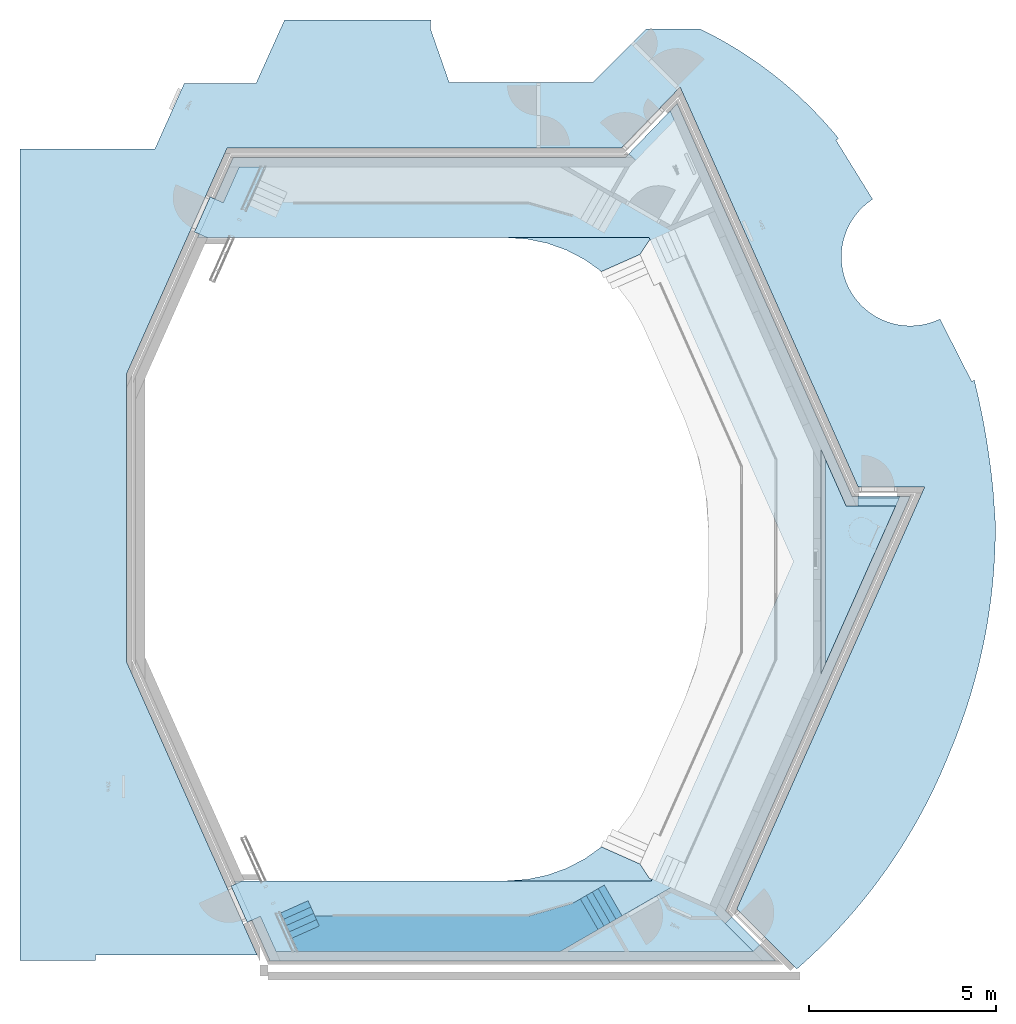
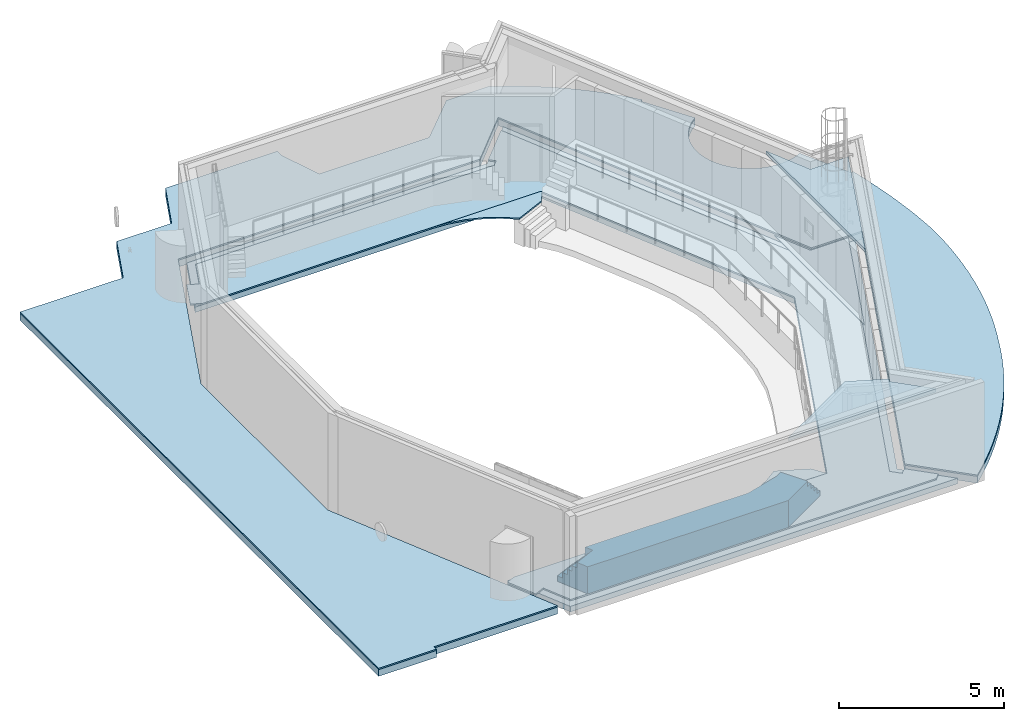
# One storey, part 4 of 16: 11 slabs.
"""IFC2X3 building model written with IfcOpenShell, lengths in millimetres."""

from ifc_helpers import new_model, entity, si_unit, converted_unit, derived_unit, direction, frame, frame_2d, origin, place, context, subcontext, project, spatial, polyline, circle_curve, parameter, trimmed, segment, composite_curve, outline, extrude, material, layer, layer_set, layer_usage, type_object, element, save


model = new_model("IFC2X3")

# Units and contexts
model_context = context("Model", 3, precision=0.01, world=origin(), true_north=direction((6.123031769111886e-17, 1.0)))
body_context = subcontext(model_context, "Body", "Model", "MODEL_VIEW")
ifc_project = project(units=[si_unit("LENGTHUNIT", "METRE", prefix="MILLI"), si_unit("AREAUNIT", "SQUARE_METRE"), si_unit("VOLUMEUNIT", "CUBIC_METRE"), converted_unit("PLANEANGLEUNIT", "DEGREE", entity("IfcRatioMeasure", 0.017453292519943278), si_unit("PLANEANGLEUNIT", "RADIAN"), dimensions=[0, 0, 0, 0, 0, 0, 0]), si_unit("MASSUNIT", "GRAM", prefix="KILO"), derived_unit("MASSDENSITYUNIT", [(si_unit("MASSUNIT", "GRAM", prefix="KILO"), 1), (si_unit("LENGTHUNIT", "METRE"), -3)]), derived_unit("MOMENTOFINERTIAUNIT", [(si_unit("LENGTHUNIT", "METRE"), 4)]), si_unit("TIMEUNIT", "SECOND"), si_unit("FREQUENCYUNIT", "HERTZ"), si_unit("THERMODYNAMICTEMPERATUREUNIT", "DEGREE_CELSIUS"), derived_unit("THERMALTRANSMITTANCEUNIT", [(si_unit("MASSUNIT", "GRAM", prefix="KILO"), 1), (si_unit("THERMODYNAMICTEMPERATUREUNIT", "KELVIN"), -1), (si_unit("TIMEUNIT", "SECOND"), -3)]), derived_unit("VOLUMETRICFLOWRATEUNIT", [(si_unit("LENGTHUNIT", "METRE"), 3), (si_unit("TIMEUNIT", "SECOND"), -1)]), derived_unit("MASSFLOWRATEUNIT", [(si_unit("MASSUNIT", "GRAM", prefix="KILO"), 1), (si_unit("TIMEUNIT", "SECOND"), -1)]), derived_unit("ROTATIONALFREQUENCYUNIT", [(si_unit("TIMEUNIT", "SECOND"), -1)]), si_unit("ELECTRICCURRENTUNIT", "AMPERE"), si_unit("ELECTRICVOLTAGEUNIT", "VOLT"), si_unit("POWERUNIT", "WATT"), si_unit("FORCEUNIT", "NEWTON", prefix="KILO"), si_unit("ILLUMINANCEUNIT", "LUX"), si_unit("LUMINOUSFLUXUNIT", "LUMEN"), si_unit("LUMINOUSINTENSITYUNIT", "CANDELA"), derived_unit("USERDEFINED", [(si_unit("MASSUNIT", "GRAM", prefix="KILO"), -1), (si_unit("LENGTHUNIT", "METRE"), -2), (si_unit("TIMEUNIT", "SECOND"), 3), (si_unit("LUMINOUSFLUXUNIT", "LUMEN"), 1)]), derived_unit("SOUNDPOWERUNIT", [(si_unit("MASSUNIT", "GRAM", prefix="KILO"), 1), (si_unit("LENGTHUNIT", "METRE"), 2), (si_unit("TIMEUNIT", "SECOND"), -3)]), derived_unit("SOUNDPRESSUREUNIT", [(si_unit("MASSUNIT", "GRAM", prefix="KILO"), 1), (si_unit("LENGTHUNIT", "METRE"), -1), (si_unit("TIMEUNIT", "SECOND"), -2)]), derived_unit("LINEARVELOCITYUNIT", [(si_unit("LENGTHUNIT", "METRE"), 1), (si_unit("TIMEUNIT", "SECOND"), -1)]), si_unit("PRESSUREUNIT", "PASCAL"), derived_unit("USERDEFINED", [(si_unit("LENGTHUNIT", "METRE"), -2), (si_unit("MASSUNIT", "GRAM", prefix="KILO"), 1), (si_unit("TIMEUNIT", "SECOND"), -2)]), derived_unit("LINEARFORCEUNIT", [(si_unit("MASSUNIT", "GRAM", prefix="KILO"), 1), (si_unit("LENGTHUNIT", "METRE"), 1), (si_unit("TIMEUNIT", "SECOND"), -2), (si_unit("LENGTHUNIT", "METRE"), -1)]), derived_unit("PLANARFORCEUNIT", [(si_unit("MASSUNIT", "GRAM", prefix="KILO"), 1), (si_unit("LENGTHUNIT", "METRE"), 1), (si_unit("TIMEUNIT", "SECOND"), -2), (si_unit("LENGTHUNIT", "METRE"), -2)])], contexts=[model_context])

# Site, building, storey
site_placement = place(None, frame((-10000.0, -10000.0, 0.0)))
site = spatial("IfcSite", under=ifc_project, at=site_placement, Name="Default", CompositionType="ELEMENT")
building_placement = place(site_placement, origin())
building = spatial("IfcBuilding", under=site, at=building_placement, CompositionType="ELEMENT")
storey_placement = place(building_placement, frame((0.0, 0.0, 9000.0)))
storey = spatial("IfcBuildingStorey", under=building, at=storey_placement, Name="02 2e verdieping", CompositionType="ELEMENT", Elevation=9000.0)

# Slabs
ifc_material_1 = material(Name="NLRS_beton ihwg")
ifc_layer_1 = layer(ifc_material_1, 200.0)
ifc_layer_set_1 = layer_set([ifc_layer_1], Name="Floor:NLRS_23_FL_beton 200mm_ags")
ifc_layer_usage_1 = layer_usage(ifc_layer_set_1, "AXIS3", "POSITIVE", 0.0)
slab_type_1 = type_object("IfcSlabType", Name="Floor:NLRS_23_FL_beton 200mm_ags", PredefinedType="FLOOR", material=ifc_layer_set_1)
slab_1_placement = place(storey_placement, origin())
element("IfcSlab", 1, at=slab_1_placement, inside=storey, type_object=slab_type_1, material=ifc_layer_usage_1, Name="Floor:NLRS_23_FL_beton 200mm_ags", ObjectType="Floor:NLRS_23_FL_beton 200mm_ags", PredefinedType="FLOOR", context=body_context, shape_type="SweptSolid", body=[
    extrude(outline(polyline([(-5129.02757481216, -11231.01923179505), (8419.364655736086, -11231.019231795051), (9375.715871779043, -9083.01923179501), (-1797.6112736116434, -9083.019231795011), (-5604.630941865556, -532.313057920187), (-1739.9151334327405, 8147.980768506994), (10362.260477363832, 8147.980768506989), (9405.909261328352, 10295.98076850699), (-1099.05642686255, 10295.98076850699), (-2492.0806006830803, 11739.647953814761), (-7179.309358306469, 1211.9597964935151), (-8732.509977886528, 1211.9597964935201), (-3789.108978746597, -9891.100635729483), (-5129.02757481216, -11231.01923179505)])), frame((37541.0298777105, 39106.019231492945, -50.0), z_axis=(0.0, 0.0, -1.0), x_axis=(-1.0, 0.0, 0.0)), (0.0, 0.0, 1.0), 200.0),
])
ifc_material_2 = material(Name="NLRS_dekvloer")
ifc_layer_2 = layer(ifc_material_2, 50.0)
ifc_layer_set_2 = layer_set([ifc_layer_2], Name="Floor:NLRS_43_FL_dekvloer 50mm_ags")
ifc_layer_usage_2 = layer_usage(ifc_layer_set_2, "AXIS3", "POSITIVE", 0.0)
slab_type_2 = type_object("IfcSlabType", Name="Floor:NLRS_43_FL_dekvloer 50mm_ags", PredefinedType="FLOOR", material=ifc_layer_set_2)
slab_2_placement = place(storey_placement, origin())
element("IfcSlab", 2, at=slab_2_placement, inside=storey, type_object=slab_type_2, material=ifc_layer_usage_2, Name="Floor:NLRS_43_FL_dekvloer 50mm_ags", ObjectType="Floor:NLRS_43_FL_dekvloer 50mm_ags", PredefinedType="FLOOR", context=body_context, shape_type="SweptSolid", body=[
    extrude(outline(polyline([(-5612.166105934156, -10533.98844787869), (7170.320835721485, -10533.98844787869), (7590.336658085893, -9590.61746522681), (7942.965204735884, -9747.617809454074), (8376.139729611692, -8774.69189706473), (8064.606682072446, -8635.988447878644), (-2884.3031953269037, -8635.988447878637), (-6690.722631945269, -83.93413164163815), (-2826.6070551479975, 8595.011552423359), (9015.171925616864, 8595.011552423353), (9356.72277332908, 8747.104888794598), (8937.778043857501, 9688.070157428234), (8585.159126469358, 9531.04818552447), (8156.865441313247, 10493.01155242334), (-2291.9257207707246, 10493.011552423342), (-2459.8113476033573, 10667.00061513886), (-2279.907352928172, 10840.593681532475), (-3391.516269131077, 11992.61483477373), (-8103.649381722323, 1408.990580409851), (-8424.235658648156, 1408.990580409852), (-8424.235658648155, 1658.9905804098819), (-9545.542829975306, 1658.9905804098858), (-4577.528948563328, -9499.351290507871), (-4859.09738397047, -9780.91972591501), (-5035.874079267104, -9604.143030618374), (-5788.94280123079, -10357.211752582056), (-5612.166105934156, -10533.98844787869)])), frame((36454.33795599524, 38658.98844757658, 0.0), z_axis=(0.0, 0.0, -1.0), x_axis=(-1.0, 0.0, 0.0)), (0.0, 0.0, 1.0), 49.99999999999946),
])
ifc_material_3 = material(Name="20_APX_ontwerpmateriaal grijs")
slab_type_3 = type_object("IfcSlabType", Name="Balkon zijkanten1:Balkon zijkanten", PredefinedType="FLOOR", material=ifc_material_3)
slab_3_placement = place(storey_placement, origin())
element("IfcSlab", 3, at=slab_3_placement, inside=storey, type_object=slab_type_3, Name="Balkon zijkanten1:Balkon zijkanten", ObjectType="Balkon zijkanten1:Balkon zijkanten", PredefinedType="FLOOR", context=body_context, shape_type="SweptSolid", body=[
    extrude(outline(polyline([(-92.53679946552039, -399.9980120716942), (92.5122664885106, -399.9980120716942), (92.5122664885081, 399.9980120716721), (-92.48773351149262, 399.99801207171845), (-92.53679946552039, -399.9980120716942)])), frame((30040.72725512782, 28733.739322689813, 0.0), z_axis=(0.0, 0.0, 1.0), x_axis=(0.40679267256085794, -0.9135205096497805, 0.0)), (0.0, 0.0, 1.0), 800.0),
    extrude(outline(polyline([(-92.54370004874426, -475.00506801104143), (92.5145666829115, -475.0050680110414), (92.51456668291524, 475.0050680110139), (-92.48543331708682, 475.00506801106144), (-92.54370004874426, -475.00506801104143)])), frame((38234.94554189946, 29449.29645028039, 0.0), z_axis=(0.0, 0.0, 1.0), x_axis=(-0.8660038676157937, -0.5000372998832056, 0.0)), (0.0, 0.0, 1.0), 200.0),
    extrude(outline(polyline([(-92.54369989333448, -475.0033787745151), (92.51456663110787, -475.00337877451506), (92.51456663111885, 475.0033787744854), (-92.48543336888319, 475.00337877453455), (-92.54369989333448, -475.0033787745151)])), frame((38074.72999762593, 29356.79791322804, 0.0), z_axis=(0.0, 0.0, 1.0), x_axis=(-0.8660038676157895, -0.500037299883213, 0.0)), (0.0, 0.0, 1.0), 399.9999999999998),
    extrude(outline(polyline([(-92.54369973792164, -475.0016895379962), (92.51456657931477, -475.0016895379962), (92.51456657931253, 475.0016895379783), (-92.48543342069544, 475.0016895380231), (-92.54369973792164, -475.0016895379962)])), frame((37914.514453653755, 29264.299376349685, 0.0), z_axis=(0.0, 0.0, 1.0), x_axis=(-0.8660038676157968, -0.5000372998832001, 0.0)), (0.0, 0.0, 1.0), 600.0),
    extrude(outline(polyline([(-92.5436995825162, -475.0), (92.51456652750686, -475.0), (92.51456652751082, 475.0), (-92.48543347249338, 475.0), (-92.5436995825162, -475.0)])), frame((37754.29890968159, 29171.80083947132, 0.0), z_axis=(0.0, 0.0, 1.0), x_axis=(-0.8660038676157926, -0.5000372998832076, 0.0)), (0.0, 0.0, 1.0), 800.0),
    extrude(outline(polyline([(-92.5367994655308, -399.9980120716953), (92.5122664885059, -399.99801207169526), (92.51226648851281, 399.99801207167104), (-92.48773351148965, 399.99801207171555), (-92.5367994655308, -399.9980120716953)])), frame((29814.988418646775, 29240.757050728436, 0.0), z_axis=(0.0, 0.0, 1.0), x_axis=(0.4067926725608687, -0.9135205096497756, 0.0)), (0.0, 0.0, 1.0), 200.0),
    extrude(outline(polyline([(-92.5367994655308, -399.9980120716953), (92.5122664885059, -399.99801207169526), (92.51226648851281, 399.99801207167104), (-92.48773351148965, 399.99801207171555), (-92.5367994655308, -399.9980120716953)])), frame((29890.234697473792, 29071.75114138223, 0.0), z_axis=(0.0, 0.0, 1.0), x_axis=(0.4067926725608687, -0.9135205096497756, 0.0)), (0.0, 0.0, 1.0), 400.0),
    extrude(outline(polyline([(-92.53679946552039, -399.9980120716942), (92.5122664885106, -399.9980120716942), (92.5122664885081, 399.9980120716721), (-92.48773351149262, 399.99801207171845), (-92.53679946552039, -399.9980120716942)])), frame((29965.480976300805, 28902.74523203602, 0.0), z_axis=(0.0, 0.0, 1.0), x_axis=(0.40679267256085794, -0.9135205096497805, 0.0)), (0.0, 0.0, 1.0), 600.0),
    extrude(outline(polyline([(2170.5397231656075, -2053.3986177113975), (3348.9162604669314, -2053.3986177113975), (3348.9162604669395, -1103.3986177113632), (3100.2515538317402, -1103.398617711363), (1911.905809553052, -807.1107466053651), (-3039.4219201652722, 2051.5396509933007), (-3069.5159029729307, 1765.2145306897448), (-3865.1223963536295, 1848.786807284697), (-3906.4693879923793, 1455.1642284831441), (2170.5397231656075, -2053.3986177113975)])), frame((33984.75278928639, 28818.02550484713, 0.0), z_axis=(0.0, 0.0, 1.0), x_axis=(0.866025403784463, 0.49999999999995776, 0.0)), (0.0, 0.0, 1.0), 1000.0000000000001),
])
ifc_layer_usage_3 = layer_usage(ifc_layer_set_2, "AXIS3", "POSITIVE", 0.0)
slab_type_4 = type_object("IfcSlabType", Name="Floor:NLRS_43_FL_dekvloer 50mm_ags", PredefinedType="FLOOR", material=ifc_layer_set_2)
slab_4_placement = place(storey_placement, origin())
element("IfcSlab", 4, at=slab_4_placement, inside=storey, type_object=slab_type_4, material=ifc_layer_usage_3, Name="Floor:NLRS_43_FL_dekvloer 50mm_ags", ObjectType="Floor:NLRS_43_FL_dekvloer 50mm_ags", PredefinedType="FLOOR", context=body_context, shape_type="SweptSolid", body=[
    extrude(outline(composite_curve([segment(polyline([(-2930.146565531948, -248.18393098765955), (884.6454409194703, -248.18393098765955)]), True, "CONTINUOUS"), segment(polyline([(884.6454409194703, -248.18393098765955), (911.4255728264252, -188.03476991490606)]), True, "CONTINUOUS"), segment(polyline([(911.4255728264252, -188.03476991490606), (886.7598454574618, -177.05288054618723)]), True, "CONTINUOUS"), segment(polyline([(886.7598454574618, -177.05288054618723), (639.3189733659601, 201.2130176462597)]), True, "CONTINUOUS"), segment(polyline([(639.3189733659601, 201.2130176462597), (-392.00326703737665, 660.2424947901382)]), True, "CONTINUOUS"), segment(trimmed(circle_curve(frame_2d((-2930.1465655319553, 3751.8152811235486), x_axis=(0.6345359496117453, -0.7728933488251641)), 3999.9992121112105), [parameter(320.61442479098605)], [parameter(0.0)], True, "PARAMETER"), False, "CONTINUOUS")], self_intersect=False)), frame((38396.29957022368, 47005.81606901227, 0.0), z_axis=(0.0, 0.0, -1.0), x_axis=(1.0, 0.0, 0.0)), (0.0, 0.0, 1.0), 49.99999999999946),
])
ifc_layer_usage_4 = layer_usage(ifc_layer_set_2, "AXIS3", "POSITIVE", 0.0)
slab_type_5 = type_object("IfcSlabType", Name="Floor:NLRS_43_FL_dekvloer 50mm_ags", PredefinedType="FLOOR", material=ifc_layer_set_2)
slab_5_placement = place(storey_placement, origin())
element("IfcSlab", 5, at=slab_5_placement, inside=storey, type_object=slab_type_5, material=ifc_layer_usage_4, Name="Floor:NLRS_43_FL_dekvloer 50mm_ags", ObjectType="Floor:NLRS_43_FL_dekvloer 50mm_ags", PredefinedType="FLOOR", context=body_context, shape_type="SweptSolid", body=[
    extrude(outline(composite_curve([segment(polyline([(-924.7011140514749, -244.61121852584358), (2947.7870324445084, -244.61121852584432)]), True, "CONTINUOUS"), segment(trimmed(circle_curve(frame_2d((2947.7870324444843, 3755.38799358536), x_axis=(0.0, -1.0)), 3999.9992121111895), [parameter(320.6144247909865)], [parameter(0.0)], True, "PARAMETER"), False, "CONTINUOUS"), segment(polyline([(409.6437339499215, 663.815207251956), (-621.6785064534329, 204.78573010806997)]), True, "CONTINUOUS"), segment(polyline([(-621.6785064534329, 204.78573010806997), (-869.1193785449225, -173.480168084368)]), True, "CONTINUOUS"), segment(polyline([(-869.1193785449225, -173.480168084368), (-941.9317673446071, -205.89833222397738)]), True, "CONTINUOUS"), segment(polyline([(-941.9317673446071, -205.89833222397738), (-924.7011140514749, -244.61121852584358)]), True, "CONTINUOUS")], self_intersect=False)), frame((38413.940037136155, 30267.611217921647, 0.0), z_axis=(0.0, 0.0, -1.0), x_axis=(-1.0, 0.0, 0.0)), (0.0, 0.0, 1.0), 49.99999999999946),
])
ifc_layer_usage_5 = layer_usage(ifc_layer_set_2, "AXIS3", "POSITIVE", 0.0)
slab_type_6 = type_object("IfcSlabType", Name="Floor:NLRS_43_FL_dekvloer 50mm_ags", PredefinedType="FLOOR", material=ifc_layer_set_2)
slab_6_placement = place(storey_placement, origin())
element("IfcSlab", 6, at=slab_6_placement, inside=storey, type_object=slab_type_6, material=ifc_layer_usage_5, Name="Floor:NLRS_43_FL_dekvloer 50mm_ags", ObjectType="Floor:NLRS_43_FL_dekvloer 50mm_ags", PredefinedType="FLOOR", context=body_context, shape_type="SweptSolid", body=[
    extrude(outline(composite_curve([segment(polyline([(-15836.764523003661, -14147.568460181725), (5898.370263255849, -14147.568460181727)]), True, "CONTINUOUS"), segment(polyline([(5898.370263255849, -14147.568460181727), (5898.370263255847, -10535.246649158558)]), True, "CONTINUOUS"), segment(polyline([(5898.370263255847, -10535.246649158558), (7662.3702632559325, -9745.777485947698)]), True, "CONTINUOUS"), segment(polyline([(7662.3702632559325, -9745.777485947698), (7662.370263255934, -7822.777485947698)]), True, "CONTINUOUS"), segment(polyline([(7662.370263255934, -7822.777485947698), (9358.370179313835, -7058.88668169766)]), True, "CONTINUOUS"), segment(polyline([(9358.370179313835, -7058.88668169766), (9358.370179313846, -3142.566174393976)]), True, "CONTINUOUS"), segment(trimmed(circle_curve(frame_2d((8996.177203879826, 21348.293983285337), x_axis=(0.01478728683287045, -0.9998906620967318)), 24493.53822979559), [parameter(359.41012805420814)], [parameter(0.0)], True, "PARAMETER"), False, "CONTINUOUS"), segment(polyline([(9106.216948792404, -3144.9970628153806), (7685.327391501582, -2648.8168206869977)]), True, "CONTINUOUS"), segment(polyline([(7685.327391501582, -2648.8168206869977), (7685.327391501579, 1196.0750292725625)]), True, "CONTINUOUS"), segment(polyline([(7685.327391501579, 1196.0750292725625), (9118.632836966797, 2629.3804747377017)]), True, "CONTINUOUS"), segment(polyline([(9118.632836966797, 2629.3804747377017), (9118.632836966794, 4072.2938367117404)]), True, "CONTINUOUS"), segment(trimmed(circle_curve(frame_2d((-700.7660250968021, -674.506740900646), x_axis=(0.9003217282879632, 0.43522498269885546)), 10906.54435354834), [parameter(0.0)], [parameter(25.05863159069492)], True, "PARAMETER"), True, "CONTINUOUS"), segment(trimmed(circle_curve(frame_2d((2983.4444578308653, 9666.039616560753), x_axis=(0.8620566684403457, -0.5068118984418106)), 3712.5749385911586), [parameter(358.72098504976)], [parameter(0.0)], True, "PARAMETER"), False, "CONTINUOUS"), segment(polyline([(6141.098054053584, 7713.493473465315), (4555.127475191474, 8696.590167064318)]), True, "CONTINUOUS"), segment(trimmed(circle_curve(frame_2d((3009.522289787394, 9704.477378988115), x_axis=(0.8376394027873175, -0.5462236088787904)), 1845.1915946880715), [parameter(187.55225757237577)], [parameter(0.0)], True, "PARAMETER"), False, "CONTINUOUS"), segment(polyline([(1344.857589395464, 10500.48206262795), (-325.24323910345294, 11350.022513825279)]), True, "CONTINUOUS"), segment(polyline([(-325.24323910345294, 11350.022513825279), (-289.74615603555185, 11419.805780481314)]), True, "CONTINUOUS"), segment(trimmed(circle_curve(frame_2d((-5227.095513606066, -8600.442699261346), x_axis=(0.23944373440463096, 0.9709102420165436)), 20620.081664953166), [parameter(0.0)], [parameter(8.430457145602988)], True, "PARAMETER"), True, "CONTINUOUS"), segment(polyline([(-3278.2427558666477, 11927.337034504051), (-4114.479584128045, 11986.007270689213)]), True, "CONTINUOUS"), segment(trimmed(circle_curve(frame_2d((-4219.1923442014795, -3543.627040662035), x_axis=(0.006742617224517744, 0.9999772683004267)), 15529.987334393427), [parameter(0.0)], [parameter(23.559640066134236)], True, "PARAMETER"), True, "CONTINUOUS"), segment(trimmed(circle_curve(frame_2d((-4730.7275093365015, -3244.785598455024), x_axis=(-0.3718750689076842, 0.9282827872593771)), 15058.091013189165), [parameter(0.0)], [parameter(27.004570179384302)], True, "PARAMETER"), True, "CONTINUOUS"), segment(polyline([(-16066.867763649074, 6666.724331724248), (-14456.578842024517, 5056.435410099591)]), True, "CONTINUOUS"), segment(polyline([(-14456.578842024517, 5056.435410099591), (-3158.7998484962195, 10086.530698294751)]), True, "CONTINUOUS"), segment(polyline([(-3158.7998484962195, 10086.530698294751), (-3158.799848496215, 8310.715736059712)]), True, "CONTINUOUS"), segment(polyline([(-3158.799848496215, 8310.715736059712), (7559.235938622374, 3538.7387534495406)]), True, "CONTINUOUS"), segment(polyline([(7559.235938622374, 3538.7387534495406), (5925.221123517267, 1962.0442348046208)]), True, "CONTINUOUS"), segment(polyline([(5925.221123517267, 1962.0442348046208), (5925.221123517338, -8599.206680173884)]), True, "CONTINUOUS"), segment(polyline([(5925.221123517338, -8599.206680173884), (-134.06662553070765, -11296.975398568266)]), True, "CONTINUOUS"), segment(polyline([(-134.06662553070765, -11296.975398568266), (-7826.675664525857, -11296.975398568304)]), True, "CONTINUOUS"), segment(polyline([(-7826.675664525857, -11296.975398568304), (-15686.764523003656, -7797.438369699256)]), True, "CONTINUOUS"), segment(polyline([(-15686.764523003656, -7797.438369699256), (-15686.764523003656, -12122.859620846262)]), True, "CONTINUOUS"), segment(polyline([(-15686.764523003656, -12122.859620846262), (-15836.764523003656, -12122.859620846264)]), True, "CONTINUOUS"), segment(polyline([(-15836.764523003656, -12122.859620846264), (-15836.764523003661, -14147.568460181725)]), True, "CONTINUOUS")], self_intersect=False)), frame((36571.97539825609, 43726.778876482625, 0.0), z_axis=(0.0, 0.0, -1.0), x_axis=(0.0, 1.0, 0.0)), (0.0, 0.0, 1.0), 49.99999999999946),
])
ifc_material_4 = material(Name="NLRS_gipsplaat")
ifc_layer_3 = layer(ifc_material_4, 12.5)
ifc_layer_4 = layer(ifc_material_4, 12.5)
ifc_material_5 = material(Name="NLRS_aluminium C-profielen met isolatie")
ifc_layer_5 = layer(ifc_material_5, 75.0)
ifc_layer_6 = layer(ifc_material_4, 12.5)
ifc_layer_7 = layer(ifc_material_4, 12.5)
ifc_layer_set_3 = layer_set([ifc_layer_3, ifc_layer_4, ifc_layer_5, ifc_layer_6, ifc_layer_7], Name="Floor:NLRS_43_FL_gipsmontage 125mm_ags")
ifc_layer_usage_6 = layer_usage(ifc_layer_set_3, "AXIS3", "POSITIVE", 0.0)
slab_type_7 = type_object("IfcSlabType", Name="Floor:NLRS_43_FL_gipsmontage 125mm_ags", PredefinedType="FLOOR")
slab_7_placement = place(storey_placement, frame((36891.19463832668, 28125.0, 3200.0)))
element("IfcSlab", 7, at=slab_7_placement, inside=storey, type_object=slab_type_7, material=ifc_layer_usage_6, Name="Floor:NLRS_43_FL_gipsmontage 125mm_ags:2", ObjectType="Floor:NLRS_43_FL_gipsmontage 125mm_ags", PredefinedType="FLOOR", context=body_context, shape_type="SweptSolid", body=[
    extrude(outline(polyline([(-4398.686290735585, -3084.773878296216), (-4398.686290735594, 2928.104688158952), (-5071.673628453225, 1416.55037928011), (-6399.782647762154, 1416.55037928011), (-4398.686290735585, -3084.773878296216)])), frame((2595.1190709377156, 10526.428649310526, 125.0), z_axis=(0.0, 0.0, -1.0), x_axis=(-1.0, 0.0, 0.0)), (0.0, 0.0, 1.0), 124.99999999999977),
])
slab_type_8 = type_object("IfcSlabType", Name="Floor:NLRS_43_FL_gipsmontage 125mm_ags", PredefinedType="FLOOR", material=ifc_layer_set_3)
slab_8_placement = place(storey_placement, frame((36891.19463832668, 28125.0, 3200.0)))
element("IfcSlab", 8, at=slab_8_placement, inside=storey, type_object=slab_type_8, material=ifc_layer_usage_6, Name="Floor:NLRS_43_FL_gipsmontage 125mm_ags:3", ObjectType="Floor:NLRS_43_FL_gipsmontage 125mm_ags", PredefinedType="FLOOR", context=body_context, shape_type="SweptSolid", body=[
    extrude(outline(polyline([(-372.00133885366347, -8813.360881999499), (-1603.5573338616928, -9361.512063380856), (-1545.5531952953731, -9491.791491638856), (-2580.190352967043, -10526.428649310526), (2595.1190709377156, -10526.428649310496), (-372.00133885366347, -8813.360881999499)])), frame((2595.1190709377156, 10526.428649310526, 125.0), z_axis=(0.0, 0.0, -1.0), x_axis=(-1.0, 0.0, 0.0)), (0.0, 0.0, 1.0), 124.99999999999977),
])
ifc_layer_8 = layer(ifc_material_1, 250.00000000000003)
ifc_layer_set_4 = layer_set([ifc_layer_8], Name="Floor:NLRS_23_FL_beton 250mm_ags")
ifc_layer_usage_7 = layer_usage(ifc_layer_set_4, "AXIS3", "POSITIVE", 0.0)
slab_type_9 = type_object("IfcSlabType", Name="Floor:NLRS_23_FL_beton 250mm_ags", PredefinedType="FLOOR", material=ifc_layer_set_4)
slab_9_placement = place(storey_placement, origin())
element("IfcSlab", 9, at=slab_9_placement, inside=storey, type_object=slab_type_9, material=ifc_layer_usage_7, Name="Floor:NLRS_23_FL_beton 250mm_ags", ObjectType="Floor:NLRS_23_FL_beton 250mm_ags", PredefinedType="FLOOR", context=body_context, shape_type="SweptSolid", body=[
    extrude(outline(composite_curve([segment(polyline([(-15836.764523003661, -14147.568460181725), (5898.370263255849, -14147.568460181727)]), True, "CONTINUOUS"), segment(polyline([(5898.370263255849, -14147.568460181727), (5898.370263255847, -10535.246649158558)]), True, "CONTINUOUS"), segment(polyline([(5898.370263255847, -10535.246649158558), (7662.3702632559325, -9745.777485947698)]), True, "CONTINUOUS"), segment(polyline([(7662.3702632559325, -9745.777485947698), (7662.370263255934, -7822.777485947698)]), True, "CONTINUOUS"), segment(polyline([(7662.370263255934, -7822.777485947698), (9358.370179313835, -7058.88668169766)]), True, "CONTINUOUS"), segment(polyline([(9358.370179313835, -7058.88668169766), (9358.370179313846, -3142.566174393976)]), True, "CONTINUOUS"), segment(trimmed(circle_curve(frame_2d((8996.177203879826, 21348.293983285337), x_axis=(0.01478728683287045, -0.9998906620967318)), 24493.53822979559), [parameter(359.41012805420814)], [parameter(0.0)], True, "PARAMETER"), False, "CONTINUOUS"), segment(polyline([(9106.216948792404, -3144.9970628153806), (7685.327391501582, -2648.8168206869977)]), True, "CONTINUOUS"), segment(polyline([(7685.327391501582, -2648.8168206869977), (7685.327391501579, 1196.0750292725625)]), True, "CONTINUOUS"), segment(polyline([(7685.327391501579, 1196.0750292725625), (9118.632836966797, 2629.3804747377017)]), True, "CONTINUOUS"), segment(polyline([(9118.632836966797, 2629.3804747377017), (9118.632836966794, 4072.2938367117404)]), True, "CONTINUOUS"), segment(trimmed(circle_curve(frame_2d((-700.7660250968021, -674.506740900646), x_axis=(0.9003217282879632, 0.43522498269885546)), 10906.54435354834), [parameter(0.0)], [parameter(25.05863159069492)], True, "PARAMETER"), True, "CONTINUOUS"), segment(trimmed(circle_curve(frame_2d((2983.4444578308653, 9666.039616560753), x_axis=(0.8620566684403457, -0.5068118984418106)), 3712.5749385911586), [parameter(358.72098504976)], [parameter(0.0)], True, "PARAMETER"), False, "CONTINUOUS"), segment(polyline([(6141.098054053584, 7713.493473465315), (4555.127475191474, 8696.590167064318)]), True, "CONTINUOUS"), segment(trimmed(circle_curve(frame_2d((3009.522289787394, 9704.477378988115), x_axis=(0.8376394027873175, -0.5462236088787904)), 1845.1915946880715), [parameter(187.55225757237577)], [parameter(0.0)], True, "PARAMETER"), False, "CONTINUOUS"), segment(polyline([(1344.857589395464, 10500.48206262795), (-325.24323910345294, 11350.022513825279)]), True, "CONTINUOUS"), segment(polyline([(-325.24323910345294, 11350.022513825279), (-289.74615603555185, 11419.805780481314)]), True, "CONTINUOUS"), segment(trimmed(circle_curve(frame_2d((-5227.095513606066, -8600.442699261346), x_axis=(0.23944373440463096, 0.9709102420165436)), 20620.081664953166), [parameter(0.0)], [parameter(8.430457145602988)], True, "PARAMETER"), True, "CONTINUOUS"), segment(polyline([(-3278.2427558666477, 11927.337034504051), (-4114.479584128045, 11986.007270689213)]), True, "CONTINUOUS"), segment(trimmed(circle_curve(frame_2d((-4219.1923442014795, -3543.627040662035), x_axis=(0.006742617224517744, 0.9999772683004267)), 15529.987334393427), [parameter(0.0)], [parameter(23.559640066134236)], True, "PARAMETER"), True, "CONTINUOUS"), segment(trimmed(circle_curve(frame_2d((-4730.7275093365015, -3244.785598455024), x_axis=(-0.3718750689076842, 0.9282827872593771)), 15058.091013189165), [parameter(0.0)], [parameter(27.004570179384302)], True, "PARAMETER"), True, "CONTINUOUS"), segment(polyline([(-16066.867763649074, 6666.724331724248), (-14456.578842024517, 5056.435410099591)]), True, "CONTINUOUS"), segment(polyline([(-14456.578842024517, 5056.435410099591), (-3158.7998484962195, 10086.530698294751)]), True, "CONTINUOUS"), segment(polyline([(-3158.7998484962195, 10086.530698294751), (-3158.799848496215, 8310.715736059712)]), True, "CONTINUOUS"), segment(polyline([(-3158.799848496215, 8310.715736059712), (7559.235938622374, 3538.7387534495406)]), True, "CONTINUOUS"), segment(polyline([(7559.235938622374, 3538.7387534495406), (5925.221123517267, 1962.0442348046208)]), True, "CONTINUOUS"), segment(polyline([(5925.221123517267, 1962.0442348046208), (5925.221123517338, -8599.206680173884)]), True, "CONTINUOUS"), segment(polyline([(5925.221123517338, -8599.206680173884), (-134.06662553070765, -11296.975398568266)]), True, "CONTINUOUS"), segment(polyline([(-134.06662553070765, -11296.975398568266), (-7826.675664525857, -11296.975398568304)]), True, "CONTINUOUS"), segment(polyline([(-7826.675664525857, -11296.975398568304), (-15686.764523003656, -7797.438369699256)]), True, "CONTINUOUS"), segment(polyline([(-15686.764523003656, -7797.438369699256), (-15686.764523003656, -12122.859620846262)]), True, "CONTINUOUS"), segment(polyline([(-15686.764523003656, -12122.859620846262), (-15836.764523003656, -12122.859620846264)]), True, "CONTINUOUS"), segment(polyline([(-15836.764523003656, -12122.859620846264), (-15836.764523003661, -14147.568460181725)]), True, "CONTINUOUS")], self_intersect=False)), frame((36571.97539825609, 43726.778876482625, -50.0), z_axis=(0.0, 0.0, -1.0), x_axis=(0.0, 1.0, 0.0)), (0.0, 0.0, 1.0), 249.9999999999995),
])
ifc_material_6 = material(Name="NLRS_multiplex")
ifc_layer_9 = layer(ifc_material_6, 18.0)
ifc_layer_set_5 = layer_set([ifc_layer_9], Name="Floor:NLRS_23_FL_multiplex 18mm_ags")
ifc_layer_usage_8 = layer_usage(ifc_layer_set_5, "AXIS3", "POSITIVE", 0.0)
slab_type_10 = type_object("IfcSlabType", Name="Floor:NLRS_23_FL_multiplex 18mm_ags", PredefinedType="FLOOR", material=ifc_layer_set_5)
slab_10_placement = place(storey_placement, origin())
element("IfcSlab", 10, at=slab_10_placement, inside=storey, type_object=slab_type_10, material=ifc_layer_usage_8, Name="Floor:NLRS_23_FL_multiplex 18mm_ags", ObjectType="Floor:NLRS_23_FL_multiplex 18mm_ags", PredefinedType="FLOOR", context=body_context, shape_type="SweptSolid", body=[
    extrude(outline(polyline([(-3472.208993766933, -606.6402380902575), (1977.9361393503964, -606.6402380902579), (747.1364272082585, -58.65290037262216), (747.1364272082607, 1271.9333765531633), (-3472.208993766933, -606.6402380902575)])), frame((44616.64023809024, 39320.84260077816, 330.0), z_axis=(0.0, 0.0, -1.0), x_axis=(0.0, 1.0, 0.0)), (0.0, 0.0, 1.0), 18.000000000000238),
])
ifc_layer_usage_9 = layer_usage(ifc_layer_set_5, "AXIS3", "POSITIVE", 0.0)
slab_type_11 = type_object("IfcSlabType", Name="Floor:NLRS_23_FL_multiplex 18mm_ags", PredefinedType="FLOOR", material=ifc_layer_set_5)
slab_11_placement = place(storey_placement, origin())
element("IfcSlab", 11, at=slab_11_placement, inside=storey, type_object=slab_type_11, material=ifc_layer_usage_9, Name="Floor:NLRS_23_FL_multiplex 18mm_ags", ObjectType="Floor:NLRS_23_FL_multiplex 18mm_ags", PredefinedType="FLOOR", context=body_context, shape_type="SweptSolid", body=[
    extrude(outline(polyline([(-105.0, -528.3745059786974), (105.0, -528.3745059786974), (105.0, 575.1235179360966), (-105.0, 481.6254940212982), (-105.0, -528.3745059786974)])), frame((45406.948120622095, 40172.97902798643, 165.0), z_axis=(0.0, 0.0, -1.0), x_axis=(0.0, 1.0, 0.0)), (0.0, 0.0, 1.0), 18.000000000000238),
])

save(model, "model.ifc")
